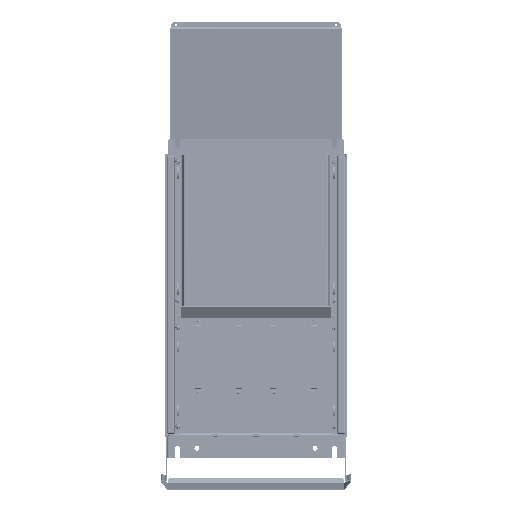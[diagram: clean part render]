
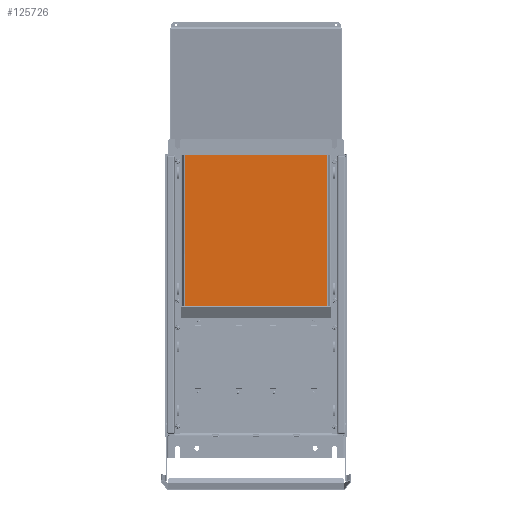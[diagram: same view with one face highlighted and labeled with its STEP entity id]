
A CAD part, front view. The second image highlights one B-rep face of the part: STEP entity #125726.
In plain terms, the highlighted planar face has unit normal (0, -1, 0).
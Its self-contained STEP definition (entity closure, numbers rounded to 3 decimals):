
#23500=DIRECTION('',(1.,0.,0.));
#23501=VECTOR('',#23500,246.117);
#23502=CARTESIAN_POINT('',(-123.059,0.,-20.));
#23503=LINE('',#23502,#23501);
#23548=CARTESIAN_POINT('',(123.059,0.,240.));
#23865=DIRECTION('',(0.,0.,1.));
#23866=VECTOR('',#23865,260.);
#23867=CARTESIAN_POINT('',(-123.059,0.,-20.));
#23868=LINE('',#23867,#23866);
#23869=DIRECTION('',(1.,0.,0.));
#23870=VECTOR('',#23869,246.117);
#23871=CARTESIAN_POINT('',(-123.059,0.,240.));
#23872=LINE('',#23871,#23870);
#23873=DIRECTION('',(0.,0.,-1.));
#23874=VECTOR('',#23873,260.);
#23875=CARTESIAN_POINT('',(123.059,0.,240.));
#23876=LINE('',#23875,#23874);
#104416=CARTESIAN_POINT('',(-123.059,0.,-20.));
#104418=VERTEX_POINT('',#104416);
#104419=CARTESIAN_POINT('',(123.059,0.,-20.));
#104420=VERTEX_POINT('',#104419);
#104431=CARTESIAN_POINT('',(-123.059,0.,240.));
#104432=VERTEX_POINT('',#104431);
#104441=VERTEX_POINT('',#23548);
#125715=CARTESIAN_POINT('',(0.,0.,110.));
#125716=DIRECTION('',(0.,1.,0.));
#125717=DIRECTION('',(-1.,0.,0.));
#125718=AXIS2_PLACEMENT_3D('',#125715,#125716,#125717);
#125719=PLANE('',#125718);
#125720=ORIENTED_EDGE('',*,*,#125240,.F.);
#125721=ORIENTED_EDGE('',*,*,#125265,.T.);
#125722=ORIENTED_EDGE('',*,*,#125307,.T.);
#125723=ORIENTED_EDGE('',*,*,#125684,.T.);
#125724=EDGE_LOOP('',(#125720,#125721,#125722,#125723));
#125725=FACE_OUTER_BOUND('',#125724,.F.);
#125726=ADVANCED_FACE('',(#125725),#125719,.F.);
#125240=EDGE_CURVE('',#104418,#104420,#23503,.T.);
#125265=EDGE_CURVE('',#104418,#104432,#23868,.T.);
#125307=EDGE_CURVE('',#104432,#104441,#23872,.T.);
#125684=EDGE_CURVE('',#104441,#104420,#23876,.T.);
